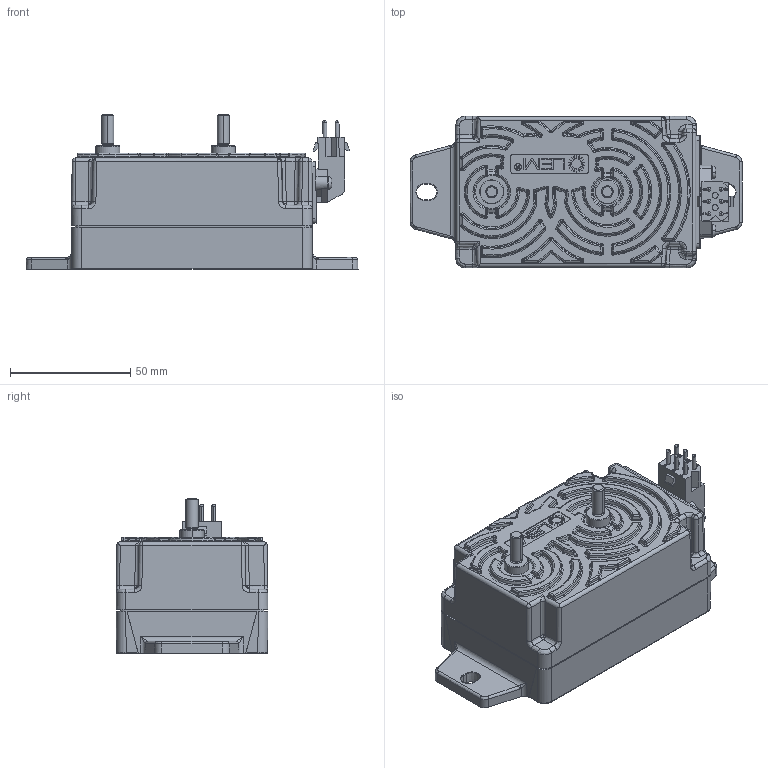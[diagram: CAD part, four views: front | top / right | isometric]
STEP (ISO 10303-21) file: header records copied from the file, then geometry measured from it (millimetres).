
FILE_DESCRIPTION(('Creo Elements/Direct Modeling STEP Export'),'2;1');
FILE_NAME('DVL_1000_SP1.stp','2012-12-11T17:29:27',(''),(''),'Creo Elements/Direct Modeling STEP processor for AP214 (Solid Model)','Creo Elements/Direct Modeling 17.0C 05-Feb-2011 (C) Parametric Technology GmbH','');
FILE_SCHEMA(('AUTOMOTIVE_DESIGN { 1 0 10303 214 1 1 1 1 }'));
Products named in the file (1): BLACKBOX_DVL_ENCOMB_TYPE_C
Bounding box: 137.83 x 63.01 x 64.3 mm (x, y, z)
Volume: 298661 mm3; surface area: 37423.6 mm2
Topology: 1 solids, 3 shells, 2217 faces, 5573 edges, 3399 vertices
Faces by surface type: bspline 832, plane 799, cylinder 262, torus 187, cone 100, sphere 25, extrusion 12
Entity records: 127714 total; most frequent: CARTESIAN_POINT 82175, ORIENTED_EDGE 11064, DIRECTION 6013, EDGE_CURVE 5532, VERTEX_POINT 3399, EDGE_LOOP 2315, FACE_OUTER_BOUND 2217, ADVANCED_FACE 2217
